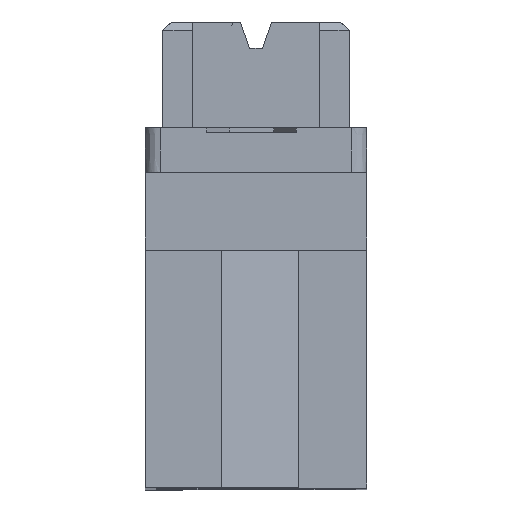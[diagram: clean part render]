
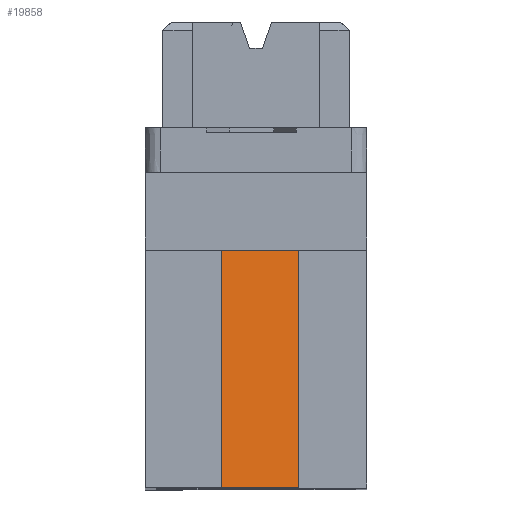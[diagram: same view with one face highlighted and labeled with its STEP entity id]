
A CAD part, top view. The second image highlights one B-rep face of the part: STEP entity #19858.
In plain terms, the highlighted free-form (B-spline) face has degree [1, 1] with [2, 2] control points.
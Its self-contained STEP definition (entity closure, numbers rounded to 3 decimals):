
#190 = VERTEX_POINT ( 'NONE', #18276 ) ;
#1159 = CARTESIAN_POINT ( 'NONE',  ( -2.304, -5.15, 40.845 ) ) ;
#1857 = FACE_OUTER_BOUND ( 'NONE', #15607, .T. ) ;
#2048 = ORIENTED_EDGE ( 'NONE', *, *, #20581, .T. ) ;
#2360 = CARTESIAN_POINT ( 'NONE',  ( 2.815, -5.15, 39.462 ) ) ;
#2523 = VERTEX_POINT ( 'NONE', #8630 ) ;
#2679 = CARTESIAN_POINT ( 'NONE',  ( 2.815, -5.15, 39.462 ) ) ;
#2877 = CARTESIAN_POINT ( 'NONE',  ( -2.304, -20.93, 40.845 ) ) ;
#3221 = CARTESIAN_POINT ( 'NONE',  ( -2.304, -5.15, 40.845 ) ) ;
#4566 = CARTESIAN_POINT ( 'NONE',  ( 2.815, -5.15, 39.462 ) ) ;
#5510 = B_SPLINE_SURFACE_WITH_KNOTS ( 'NONE', 1, 1, ( 
 ( #2877, #1159 ),
 ( #14755, #4566 ) ),
 .UNSPECIFIED., .F., .F., .F.,
 ( 2, 2 ),
 ( 2, 2 ),
 ( 0., 1. ),
 ( 0., 2.976 ),
 .UNSPECIFIED. ) ;
#6706 = ORIENTED_EDGE ( 'NONE', *, *, #15426, .T. ) ;
#7516 = CARTESIAN_POINT ( 'NONE',  ( -2.304, -20.93, 40.845 ) ) ;
#8568 = CARTESIAN_POINT ( 'NONE',  ( -2.304, -20.93, 40.845 ) ) ;
#8630 = CARTESIAN_POINT ( 'NONE',  ( 2.815, -20.93, 39.462 ) ) ;
#10354 = VERTEX_POINT ( 'NONE', #3221 ) ;
#10564 = B_SPLINE_CURVE_WITH_KNOTS ( 'NONE', 1,
 ( #8568, #18807 ),
 .UNSPECIFIED., .F., .F.,
 ( 2, 2 ),
 ( 0., 1. ),
 .UNSPECIFIED. ) ;
#10785 = B_SPLINE_CURVE_WITH_KNOTS ( 'NONE', 1,
 ( #7516, #17725 ),
 .UNSPECIFIED., .F., .F.,
 ( 2, 2 ),
 ( 0., 3.127 ),
 .UNSPECIFIED. ) ;
#12384 = ORIENTED_EDGE ( 'NONE', *, *, #17139, .F. ) ;
#14568 = CARTESIAN_POINT ( 'NONE',  ( -2.304, -5.15, 40.845 ) ) ;
#14755 = CARTESIAN_POINT ( 'NONE',  ( 2.815, -20.93, 39.462 ) ) ;
#15426 = EDGE_CURVE ( 'NONE', #2523, #19687, #18787, .T. ) ;
#15607 = EDGE_LOOP ( 'NONE', ( #2048, #6706, #20613, #12384 ) ) ;
#16138 = B_SPLINE_CURVE_WITH_KNOTS ( 'NONE', 1,
 ( #2679, #14568 ),
 .UNSPECIFIED., .F., .F.,
 ( 2, 2 ),
 ( 0., 1. ),
 .UNSPECIFIED. ) ;
#17139 = EDGE_CURVE ( 'NONE', #190, #10354, #10785, .T. ) ;
#17725 = CARTESIAN_POINT ( 'NONE',  ( -2.304, -5.15, 40.845 ) ) ;
#18276 = CARTESIAN_POINT ( 'NONE',  ( -2.304, -20.93, 40.845 ) ) ;
#18787 = B_SPLINE_CURVE_WITH_KNOTS ( 'NONE', 1,
 ( #20836, #19151 ),
 .UNSPECIFIED., .F., .F.,
 ( 2, 2 ),
 ( 0., 2.976 ),
 .UNSPECIFIED. ) ;
#18807 = CARTESIAN_POINT ( 'NONE',  ( 2.815, -20.93, 39.462 ) ) ;
#19151 = CARTESIAN_POINT ( 'NONE',  ( 2.815, -5.15, 39.462 ) ) ;
#19687 = VERTEX_POINT ( 'NONE', #2360 ) ;
#19858 = ADVANCED_FACE ( 'NONE', ( #1857 ), #5510, .T. ) ;
#20581 = EDGE_CURVE ( 'NONE', #190, #2523, #10564, .T. ) ;
#20613 = ORIENTED_EDGE ( 'NONE', *, *, #21348, .T. ) ;
#20836 = CARTESIAN_POINT ( 'NONE',  ( 2.815, -20.93, 39.462 ) ) ;
#21348 = EDGE_CURVE ( 'NONE', #19687, #10354, #16138, .T. ) ;
